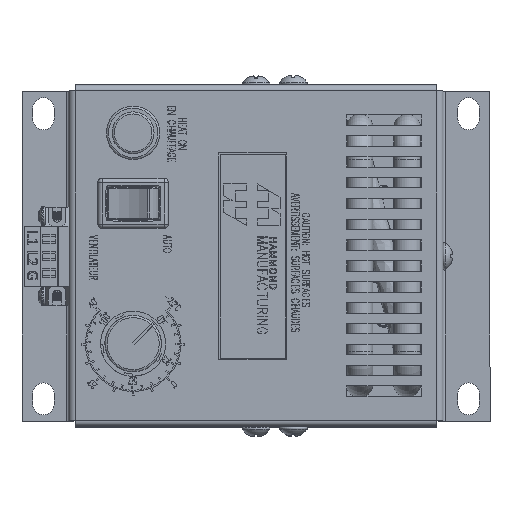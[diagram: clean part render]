
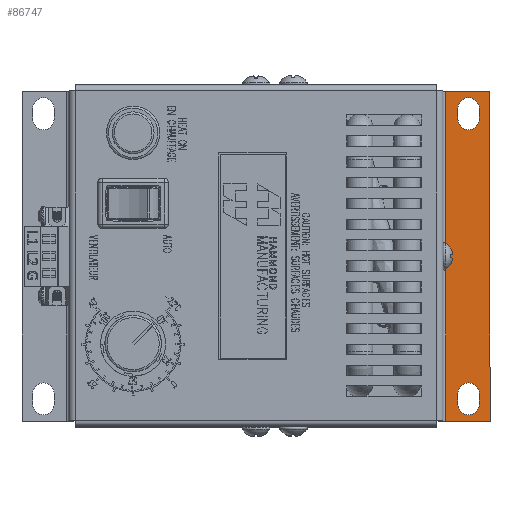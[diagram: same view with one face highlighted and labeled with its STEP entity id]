
A CAD part, top view. The second image highlights one B-rep face of the part: STEP entity #86747.
In plain terms, the highlighted planar face has unit normal (0, 0, 1).
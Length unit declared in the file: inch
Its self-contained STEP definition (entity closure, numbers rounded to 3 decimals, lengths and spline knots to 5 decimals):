
#85868=CARTESIAN_POINT('',(2.3625,-1.6055,-4.398));
#85869=VERTEX_POINT('',#85868);
#85876=CARTESIAN_POINT('',(2.3625,-1.7305,-4.398));
#85877=VERTEX_POINT('',#85876);
#85878=CARTESIAN_POINT('',(2.3625,-1.7305,-4.398));
#85879=DIRECTION('',(0.0,1.0,0.0));
#85880=VECTOR('',#85879,0.125);
#85881=LINE('',#85878,#85880);
#85882=EDGE_CURVE('',#85877,#85869,#85881,.T.);
#85908=CARTESIAN_POINT('',(2.6125,-1.7305,-4.398));
#85909=VERTEX_POINT('',#85908);
#85910=CARTESIAN_POINT('',(2.4875,-1.7305,-4.398));
#85911=DIRECTION('',(0.0,0.0,-1.0));
#85912=DIRECTION('',(1.0,0.0,0.0));
#85913=AXIS2_PLACEMENT_3D('',#85910,#85911,#85912);
#85914=CIRCLE('',#85913,0.125);
#85915=EDGE_CURVE('',#85909,#85877,#85914,.T.);
#85940=CARTESIAN_POINT('',(2.6125,-1.6055,-4.398));
#85941=VERTEX_POINT('',#85940);
#85942=CARTESIAN_POINT('',(2.6125,-1.6055,-4.398));
#85943=DIRECTION('',(0.0,-1.0,0.0));
#85944=VECTOR('',#85943,0.125);
#85945=LINE('',#85942,#85944);
#85946=EDGE_CURVE('',#85941,#85909,#85945,.T.);
#85970=CARTESIAN_POINT('',(2.4875,-1.6055,-4.398));
#85971=DIRECTION('',(0.0,0.0,-1.0));
#85972=DIRECTION('',(-1.0,0.0,0.0));
#85973=AXIS2_PLACEMENT_3D('',#85970,#85971,#85972);
#85974=CIRCLE('',#85973,0.125);
#85975=EDGE_CURVE('',#85869,#85941,#85974,.T.);
#86124=CARTESIAN_POINT('',(2.3625,1.7305,-4.398));
#86125=VERTEX_POINT('',#86124);
#86132=CARTESIAN_POINT('',(2.3625,1.6055,-4.398));
#86133=VERTEX_POINT('',#86132);
#86134=CARTESIAN_POINT('',(2.3625,1.6055,-4.398));
#86135=DIRECTION('',(0.0,1.0,0.0));
#86136=VECTOR('',#86135,0.125);
#86137=LINE('',#86134,#86136);
#86138=EDGE_CURVE('',#86133,#86125,#86137,.T.);
#86163=CARTESIAN_POINT('',(2.6125,1.7305,-4.398));
#86164=VERTEX_POINT('',#86163);
#86171=CARTESIAN_POINT('',(2.4875,1.7305,-4.398));
#86172=DIRECTION('',(0.0,0.0,-1.0));
#86173=DIRECTION('',(1.0,0.0,0.0));
#86174=AXIS2_PLACEMENT_3D('',#86171,#86172,#86173);
#86175=CIRCLE('',#86174,0.125);
#86176=EDGE_CURVE('',#86125,#86164,#86175,.T.);
#86195=CARTESIAN_POINT('',(2.6125,1.6055,-4.398));
#86196=VERTEX_POINT('',#86195);
#86203=CARTESIAN_POINT('',(2.6125,1.7305,-4.398));
#86204=DIRECTION('',(0.0,-1.0,0.0));
#86205=VECTOR('',#86204,0.125);
#86206=LINE('',#86203,#86205);
#86207=EDGE_CURVE('',#86164,#86196,#86206,.T.);
#86226=CARTESIAN_POINT('',(2.4875,1.6055,-4.398));
#86227=DIRECTION('',(0.0,0.0,-1.0));
#86228=DIRECTION('',(-1.0,0.0,0.0));
#86229=AXIS2_PLACEMENT_3D('',#86226,#86227,#86228);
#86230=CIRCLE('',#86229,0.125);
#86231=EDGE_CURVE('',#86196,#86133,#86230,.T.);
#86672=CARTESIAN_POINT('',(2.2175,1.929,-4.398));
#86673=VERTEX_POINT('',#86672);
#86680=CARTESIAN_POINT('',(2.7375,1.929,-4.398));
#86681=VERTEX_POINT('',#86680);
#86682=CARTESIAN_POINT('',(2.7375,1.929,-4.398));
#86683=DIRECTION('',(-1.0,0.0,0.0));
#86684=VECTOR('',#86683,0.52);
#86685=LINE('',#86682,#86684);
#86686=EDGE_CURVE('',#86681,#86673,#86685,.T.);
#86705=CARTESIAN_POINT('',(2.43631,0.,-4.398));
#86706=DIRECTION('',(0.0,0.0,1.0));
#86707=DIRECTION('',(1.0,0.0,0.0));
#86708=AXIS2_PLACEMENT_3D('',#86705,#86706,#86707);
#86709=PLANE('',#86708);
#86710=CARTESIAN_POINT('',(2.2175,-1.929,-4.398));
#86711=VERTEX_POINT('',#86710);
#86712=CARTESIAN_POINT('',(2.2175,1.929,-4.398));
#86713=DIRECTION('',(0.0,-1.0,0.0));
#86714=VECTOR('',#86713,3.858);
#86715=LINE('',#86712,#86714);
#86716=EDGE_CURVE('',#86673,#86711,#86715,.T.);
#86717=ORIENTED_EDGE('',*,*,#86716,.T.);
#86718=CARTESIAN_POINT('',(2.7375,-1.929,-4.398));
#86719=VERTEX_POINT('',#86718);
#86720=CARTESIAN_POINT('',(2.7375,-1.929,-4.398));
#86721=DIRECTION('',(-1.0,0.0,0.0));
#86722=VECTOR('',#86721,0.52);
#86723=LINE('',#86720,#86722);
#86724=EDGE_CURVE('',#86719,#86711,#86723,.T.);
#86725=ORIENTED_EDGE('',*,*,#86724,.F.);
#86726=CARTESIAN_POINT('',(2.7375,-1.929,-4.398));
#86727=DIRECTION('',(0.0,1.0,0.0));
#86728=VECTOR('',#86727,3.858);
#86729=LINE('',#86726,#86728);
#86730=EDGE_CURVE('',#86719,#86681,#86729,.T.);
#86731=ORIENTED_EDGE('',*,*,#86730,.T.);
#86732=ORIENTED_EDGE('',*,*,#86686,.T.);
#86733=EDGE_LOOP('',(#86717,#86725,#86731,#86732));
#86734=FACE_OUTER_BOUND('',#86733,.T.);
#86735=ORIENTED_EDGE('',*,*,#85882,.T.);
#86736=ORIENTED_EDGE('',*,*,#85975,.T.);
#86737=ORIENTED_EDGE('',*,*,#85946,.T.);
#86738=ORIENTED_EDGE('',*,*,#85915,.T.);
#86739=EDGE_LOOP('',(#86735,#86736,#86737,#86738));
#86740=FACE_BOUND('',#86739,.T.);
#86741=ORIENTED_EDGE('',*,*,#86138,.T.);
#86742=ORIENTED_EDGE('',*,*,#86176,.T.);
#86743=ORIENTED_EDGE('',*,*,#86207,.T.);
#86744=ORIENTED_EDGE('',*,*,#86231,.T.);
#86745=EDGE_LOOP('',(#86741,#86742,#86743,#86744));
#86746=FACE_BOUND('',#86745,.T.);
#86747=ADVANCED_FACE('',(#86734,#86740,#86746),#86709,.T.);
